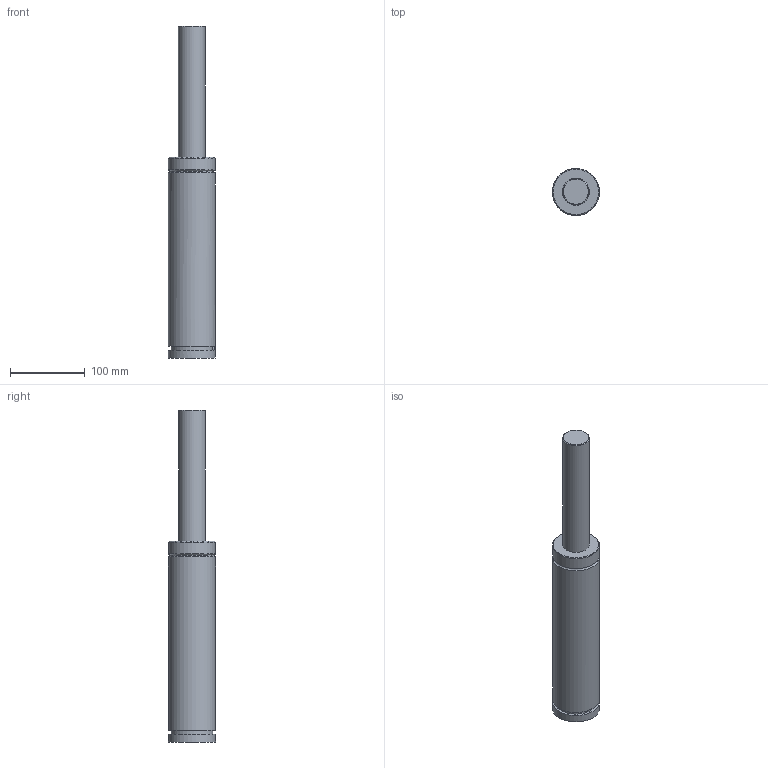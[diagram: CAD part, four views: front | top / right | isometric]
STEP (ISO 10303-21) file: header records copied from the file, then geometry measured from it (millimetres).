
FILE_DESCRIPTION(('FreeCAD Model'),'2;1');
FILE_NAME('Open CASCADE Shape Model','2024-11-12T16:43:28',('Author'),( ''),'Open CASCADE STEP processor 7.6','FreeCAD','Unknown');
FILE_SCHEMA(('AUTOMOTIVE_DESIGN { 1 0 10303 214 1 1 1 1 }'));
Length unit declared in the file: millimetre
Products named in the file (7): Unnamed; Part001; Fillet; Part003; Tapon G019; Part008; Cut002
Assembly tree (6 placements, depth 3):
  Unnamed
    Part001
      Fillet
    Part003
      Tapon G019
    Part008
      Cut002
Bounding box: 63.36 x 63 x 445 mm (x, y, z)
Volume: 1012556.4 mm3; surface area: 84104 mm2
Topology: 3 solids, 3 shells, 91 faces, 185 edges, 103 vertices
Faces by surface type: cone 32, torus 29, plane 18, cylinder 12
Full cylindrical faces by diameter (mm): 16 x1, 36 x1, 63 x3
Entity records: 2619 total; most frequent: CARTESIAN_POINT 524, DIRECTION 479, ORIENTED_EDGE 370, AXIS2_PLACEMENT_3D 210, EDGE_CURVE 185, CIRCLE 112, VERTEX_POINT 103, FACE_BOUND 94
